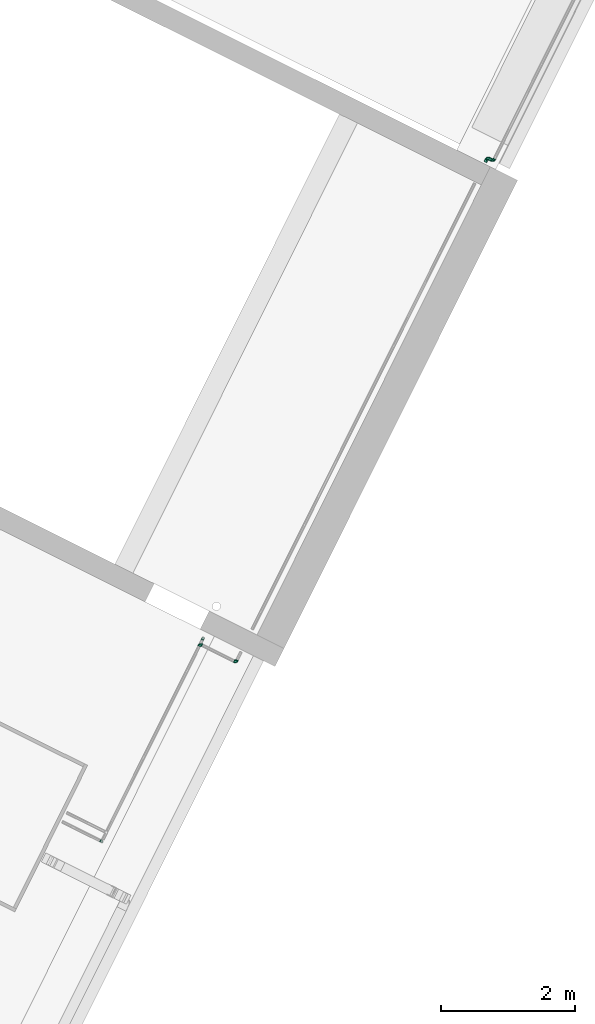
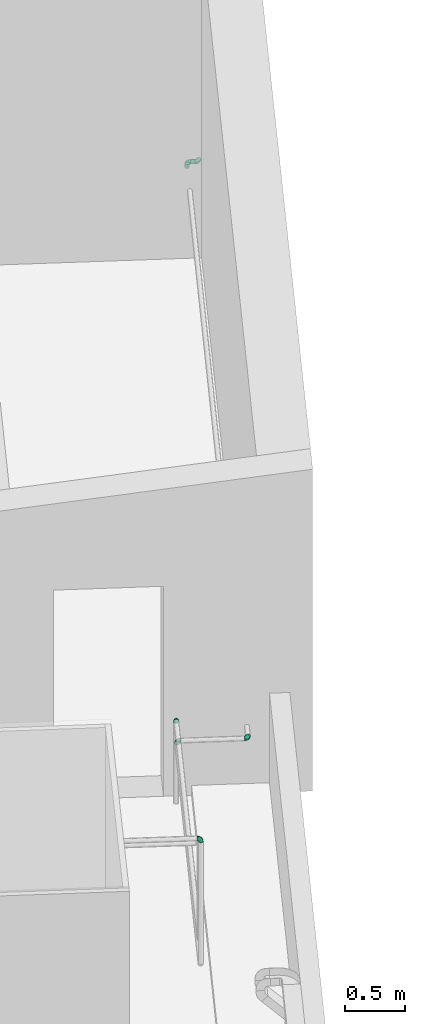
# One storey, part 28 of 34: 6 flow fittings, 2 flow segments.
"""IFC2X3 building model written with IfcOpenShell, lengths in metres."""

from ifc_helpers import new_model, entity, si_unit, converted_unit, derived_unit, direction, frame, frame_2d, origin, origin_2d_with_axis, place, context, subcontext, project, spatial, circle, extrude, faceted_brep, source, transform, mapped, type_object, type_shapes, element, save


model = new_model("IFC2X3")

# Units and contexts
model_context = context("Model", 3, precision=1e-05, world=origin(), true_north=direction((0.894925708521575, 0.446215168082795)))
context_of_model = context(None, 3, precision=1e-05, world=origin(), true_north=direction((0.894925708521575, 0.446215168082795)))
body_context = subcontext(model_context, "Body", "Model", "MODEL_VIEW")
ifc_project = project(units=[si_unit("LENGTHUNIT", "METRE"), si_unit("AREAUNIT", "SQUARE_METRE"), si_unit("VOLUMEUNIT", "CUBIC_METRE"), converted_unit("PLANEANGLEUNIT", "DEGREE", entity("IfcRatioMeasure", 0.0174532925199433), si_unit("PLANEANGLEUNIT", "RADIAN"), dimensions=[0, 0, 0, 0, 0, 0, 0]), si_unit("MASSUNIT", "GRAM", prefix="KILO"), si_unit("TIMEUNIT", "SECOND"), si_unit("FREQUENCYUNIT", "HERTZ"), si_unit("THERMODYNAMICTEMPERATUREUNIT", "DEGREE_CELSIUS"), derived_unit("THERMALTRANSMITTANCEUNIT", [(si_unit("MASSUNIT", "GRAM", prefix="KILO"), 1), (si_unit("THERMODYNAMICTEMPERATUREUNIT", "KELVIN"), -1), (si_unit("TIMEUNIT", "SECOND"), -3)]), derived_unit("VOLUMETRICFLOWRATEUNIT", [(si_unit("LENGTHUNIT", "METRE"), 3), (si_unit("TIMEUNIT", "SECOND"), -1)]), si_unit("ELECTRICCURRENTUNIT", "AMPERE"), si_unit("ELECTRICVOLTAGEUNIT", "VOLT"), si_unit("POWERUNIT", "WATT"), si_unit("FORCEUNIT", "NEWTON", prefix="KILO"), si_unit("ILLUMINANCEUNIT", "LUX"), si_unit("LUMINOUSFLUXUNIT", "LUMEN"), si_unit("LUMINOUSINTENSITYUNIT", "CANDELA"), si_unit("PRESSUREUNIT", "PASCAL")], contexts=[model_context, context_of_model])

# Site, building, storey
site_placement = place(None, frame((218.228324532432, 584.720189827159, 0.0), z_axis=(0.0, 0.0, 1.0), x_axis=(0.446215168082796, 0.894925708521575, 0.0)))
site = spatial("IfcSite", under=ifc_project, at=site_placement, Name="Default", CompositionType="ELEMENT")
building_placement = place(site_placement, origin())
building = spatial("IfcBuilding", under=site, at=building_placement, CompositionType="ELEMENT")
storey_placement = place(building_placement, frame((0.0, 0.0, 8.61)))
storey = spatial("IfcBuildingStorey", under=building, at=storey_placement, Name="2 - Piano Secondo", CompositionType="ELEMENT", Elevation=8.61)

# Flow segments
pipe_segment_type = type_object("IfcPipeSegmentType", Name="Tubazione:Antincendio-Tubazione", PredefinedType="NOTDEFINED")
flow_segment_1_placement = place(storey_placement, frame((11.1715377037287, -13.0790789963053, 0.677322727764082)))
element("IfcFlowSegment", 1, at=flow_segment_1_placement, inside=storey, type_object=pipe_segment_type, Name="Tubazione:Antincendio-Tubazione", ObjectType="Tubazione:Antincendio-Tubazione", context=body_context, shape_type="SweptSolid", body=[
    extrude(circle(Radius=0.021082, at=frame_2d((-4.33146851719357e-15, 0.0), x_axis=(1.0, 0.0))), frame((0.0226772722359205, 0.0, 0.0226772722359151), z_axis=(0.0, 1.0, 0.0), x_axis=(-1.0, 0.0, 0.0)), (0.0, 0.0, 1.0), 0.0360000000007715),
])
flow_segment_2_placement = place(storey_placement, frame((11.1262149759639, -13.0337562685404, 0.677322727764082)))
element("IfcFlowSegment", 2, at=flow_segment_2_placement, inside=storey, type_object=pipe_segment_type, Name="Tubazione:Antincendio-Tubazione", ObjectType="Tubazione:Antincendio-Tubazione", context=body_context, shape_type="SweptSolid", body=[
    extrude(circle(Radius=0.021082, at=origin_2d_with_axis()), frame((0.0, 0.022677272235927, 0.0226772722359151), z_axis=(1.0, 0.0, 0.0), x_axis=(0.0, -1.0, 0.0)), (0.0, 0.0, 1.0), 0.0360000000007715),
])

# Flow fittings
pipe_fitting_type = type_object("IfcPipeFittingType", Name="Standard", PredefinedType="NOTDEFINED")
shared_shape = source(origin(), body_context, "Body", "Brep", [
    faceted_brep([(-0.0319999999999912, 0.0105499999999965, -0.0182731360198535), (-0.0319999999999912, 0.00546108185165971, -0.0203810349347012), (-0.0319999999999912, 0.0, -0.0211000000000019), (-0.0319999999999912, -0.00546108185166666, -0.0203810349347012), (-0.0319999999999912, -0.0105500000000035, -0.0182731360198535), (-0.0319999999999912, -0.0149199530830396, -0.0149199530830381), (-0.0319999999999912, -0.0182731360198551, -0.0105500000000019), (-0.0319999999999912, -0.0203810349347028, -0.00546108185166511), (-0.0319999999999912, -0.0211000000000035, 0.0), (-0.0319999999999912, -0.0203810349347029, 0.00546108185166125), (-0.0319999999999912, -0.0182731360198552, 0.0105499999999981), (-0.0319999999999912, -0.0149199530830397, 0.0149199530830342), (-0.0319999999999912, -0.0105500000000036, 0.0182731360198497), (-0.0319999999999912, -0.00546108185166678, 0.0203810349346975), (-0.0319999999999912, 0.0, 0.0210999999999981), (-0.0319999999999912, 0.00546108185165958, 0.0203810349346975), (-0.0319999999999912, 0.00800554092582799, 0.0193270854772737), (-0.0319999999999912, 0.0105499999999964, 0.0182731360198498), (-0.0319999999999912, 0.0149199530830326, 0.0149199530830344), (-0.0319999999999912, 0.0182731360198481, 0.0105499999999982), (-0.0319999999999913, 0.0203810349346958, 0.00546108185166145), (-0.0319999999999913, 0.0210999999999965, 0.0), (-0.0319999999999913, 0.0203810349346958, -0.00546108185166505), (-0.0319999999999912, 0.0182731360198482, -0.0105500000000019), (-0.0319999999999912, 0.0149199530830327, -0.014919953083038), (0.0, 0.0319999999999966, -0.0211000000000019), (-0.00546108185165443, 0.0319999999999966, -0.0203810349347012), (-0.0105499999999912, 0.0319999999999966, -0.0182731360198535), (-0.0149199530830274, 0.0319999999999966, -0.014919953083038), (-0.0182731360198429, 0.0319999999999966, -0.0105500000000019), (-0.0203810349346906, 0.0319999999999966, -0.00546108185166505), (-0.0210999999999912, 0.0319999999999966, 0.0), (-0.0203810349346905, 0.0319999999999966, 0.00546108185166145), (-0.0182731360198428, 0.0319999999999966, 0.0105499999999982), (-0.0149199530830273, 0.0319999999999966, 0.0149199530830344), (-0.0105499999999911, 0.0319999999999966, 0.0182731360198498), (-0.00800554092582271, 0.0319999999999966, 0.0193270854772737), (-0.0054610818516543, 0.0319999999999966, 0.0203810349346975), (0.0, 0.0319999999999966, 0.0210999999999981), (0.00546108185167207, 0.0319999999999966, 0.0203810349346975), (0.0105500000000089, 0.0319999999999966, 0.0182731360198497), (0.014919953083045, 0.0319999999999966, 0.0149199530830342), (0.0165965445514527, 0.0319999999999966, 0.0127349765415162), (0.0182731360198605, 0.0319999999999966, 0.0105499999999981), (0.0203810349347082, 0.0319999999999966, 0.00546108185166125), (0.0211000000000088, 0.0319999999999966, 0.0), (0.0203810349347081, 0.0319999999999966, -0.00546108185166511), (0.0182731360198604, 0.0319999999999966, -0.0105500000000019), (0.0149199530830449, 0.0319999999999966, -0.0149199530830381), (0.0105500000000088, 0.0319999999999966, -0.0182731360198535), (0.00546108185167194, 0.0319999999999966, -0.0203810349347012), (-0.00222604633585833, 0.023728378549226, 0.0210713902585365), (0.00334042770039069, 0.0236615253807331, 0.0206549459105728), (-0.00900645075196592, -0.00960577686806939, 0.014276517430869), (-0.0209292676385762, -0.0130218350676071, 0.0154568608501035), (-0.0145908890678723, -0.0153912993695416, 0.0101692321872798), (-0.0217190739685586, -0.0190549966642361, 0.0), (-0.0220282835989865, -0.0191631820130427, 0.00633714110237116), (0.0170981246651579, 0.0147219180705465, 0.00657454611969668), (0.0192914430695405, 0.0230467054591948, 0.00652112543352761), (0.0165175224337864, 0.0200572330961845, 0.0110652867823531), (-0.0238201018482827, -0.0169140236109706, 0.0116484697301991), (0.00422109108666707, 0.00733524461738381, 0.0174775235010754), (-0.00183936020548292, -0.00157306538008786, 0.0165161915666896), (0.00494762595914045, 0.000859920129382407, 0.0133740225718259), (-0.0231100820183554, -0.0085835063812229, 0.0188172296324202), (-0.0268497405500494, 0.00624646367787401, 0.0203052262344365), (-0.0237283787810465, 0.00222604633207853, 0.0210713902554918), (0.00636919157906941, -0.00389652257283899, 0.00481660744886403), (0.00885765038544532, 0.00100436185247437, 0.00856309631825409), (0.00317363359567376, -0.0049364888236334, 0.00916667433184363), (0.0190549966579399, 0.021719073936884, 0.0), (-0.0249753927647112, 0.0127272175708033, 0.0176991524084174), (-0.0219437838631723, 0.00803535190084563, 0.0202256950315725), (-0.0080353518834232, 0.0219437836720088, 0.0202256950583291), (-0.0127272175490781, 0.0249753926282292, 0.017699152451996), (-0.0135012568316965, 0.0177999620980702, 0.0192321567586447), (-0.0259094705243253, 0.0169310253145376, 0.0140445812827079), (-0.0243638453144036, -0.00336513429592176, 0.0206817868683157), (-0.0083182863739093, -0.00215621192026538, 0.0188085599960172), (-0.0155459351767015, -0.00207489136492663, 0.0202758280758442), (-0.014962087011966, -0.00661982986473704, 0.0184646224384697), (-0.024116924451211, 0.0234834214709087, 0.00540852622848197), (-0.0260761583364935, 0.02023403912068, 0.00952662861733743), (0.0131866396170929, 0.0228304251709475, 0.0156902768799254), (0.0177597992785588, 0.0259911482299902, 0.0108087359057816), (-0.0196183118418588, 0.0196183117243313, 0.0153381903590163), (0.00836704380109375, 0.0205044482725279, 0.0185948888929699), (-0.0054260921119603, 0.0157915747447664, 0.0210819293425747), (-0.0119915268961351, 0.0119915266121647, 0.0207723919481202), (-0.00791438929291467, 0.00583732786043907, 0.0207972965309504), (-0.000718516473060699, -0.00512241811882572, 0.0130949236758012), (-0.0157915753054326, 0.00542609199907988, 0.0210819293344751), (-0.0175404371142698, 0.0125520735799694, 0.0196189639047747), (-0.00624646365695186, 0.0268497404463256, 0.0203052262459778), (-0.0030660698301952, -0.011302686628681, 0.0), (0.000544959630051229, -0.00927179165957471, 0.00474379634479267), (-0.00924044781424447, -0.0152715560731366, 0.00513668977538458), (-0.0025011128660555, 0.00396354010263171, 0.0192243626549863), (0.0111873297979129, 0.0121560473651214, 0.0142858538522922), (0.0142348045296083, 0.013520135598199, 0.0113438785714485), (-0.021173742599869, 0.0270533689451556, 0.00642753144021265), (0.0170580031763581, 0.0116795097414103, 0.0), (-0.0209433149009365, 0.0244619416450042, 0.0099283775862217), (-0.0169310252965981, 0.0259094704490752, 0.0140445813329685), (0.00815725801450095, 0.0134412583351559, 0.0171881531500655), (0.00158972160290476, 0.0138945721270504, 0.0201812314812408), (-0.0242925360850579, 0.0242925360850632, 0.0), (-0.0156139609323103, -0.0173765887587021, 0.00665048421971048), (-0.0116795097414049, -0.0170580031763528, 0.0), (0.00554737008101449, -0.00554737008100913, 0.0), (0.0113026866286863, 0.00306606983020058, 0.0), (0.0108450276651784, 0.00147671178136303, 0.0045400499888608), (0.0112958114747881, 0.00704585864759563, 0.0110546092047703), (-0.0180945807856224, 0.016544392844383, 0.0178760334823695), (-0.00497912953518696, -0.0112747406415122, 0.00913935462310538), (-0.00893572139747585, -0.00624353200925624, 0.0168798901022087), (-0.0156916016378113, 0.021034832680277, 0.0171095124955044), (-0.00342686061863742, 0.0112043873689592, 0.0208340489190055), (0.0134913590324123, 0.00703921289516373, 0.00704441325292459), (0.00841568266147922, 0.00627762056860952, 0.0138629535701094), (0.0139147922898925, 0.0140606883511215, -0.0120870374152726), (0.0170731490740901, 0.0143997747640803, -0.00631163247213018), (0.0133973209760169, 0.00669108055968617, -0.00679612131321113), (-0.0167699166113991, 0.00347561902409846, -0.0210973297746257), (-0.0230301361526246, 0.00785302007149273, -0.0201559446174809), (-0.0147344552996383, 0.0101848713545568, -0.0206819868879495), (-0.0249600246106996, 0.0021654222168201, -0.0210570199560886), (-0.0269235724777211, 0.0219306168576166, -0.00396891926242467), (-0.0108637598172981, -0.00653031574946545, -0.0173920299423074), (-0.0194617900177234, -0.00823414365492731, -0.018502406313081), (-0.0125598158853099, -0.00220699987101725, -0.0197802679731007), (-0.0268338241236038, 0.0205122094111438, -0.00828818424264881), (-0.024883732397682, 0.0171837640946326, -0.0142474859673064), (-0.0228721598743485, -0.0192710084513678, -0.00648971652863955), (-0.0193464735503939, -0.0164084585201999, -0.0109522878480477), (-0.0143997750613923, -0.0170731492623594, -0.00631163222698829), (-0.0266001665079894, -0.0170138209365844, -0.0120648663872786), (-0.00785301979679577, 0.0230301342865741, -0.0201559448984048), (-0.0252598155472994, 0.0126864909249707, -0.0176618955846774), (-0.0230841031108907, -0.0033100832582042, -0.0206322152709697), (-0.020019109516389, 0.0119073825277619, -0.0192649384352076), (-0.0225715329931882, -0.0131689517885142, -0.0156588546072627), (0.0164084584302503, 0.0193464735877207, -0.0109522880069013), (0.0170138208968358, 0.0266001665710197, -0.0120648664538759), (0.019271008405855, 0.0228721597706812, -0.00648971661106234), (-0.0105318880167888, -0.0106441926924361, -0.0140486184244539), (-0.017183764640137, 0.0248837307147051, -0.014247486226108), (-0.0266864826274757, -0.0086126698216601, -0.0191036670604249), (0.0033100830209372, 0.0230841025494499, -0.0206322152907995), (-0.0222937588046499, 0.0222937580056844, -0.0105497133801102), (-0.020353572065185, 0.0203535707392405, -0.0142844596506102), (-0.0221527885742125, 0.0262370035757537, -0.00460941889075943), (-0.00807833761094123, 0.00807833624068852, -0.0210204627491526), (-0.0126864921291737, 0.0252598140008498, -0.0176618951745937), (-0.0021654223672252, 0.0249600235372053, -0.0210570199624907), (0.0131689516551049, 0.022571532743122, -0.0156588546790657), (-0.0202234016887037, 0.0270426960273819, -0.00870077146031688), (0.00220699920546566, 0.0125598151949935, -0.0197802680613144), (0.00404629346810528, 0.00564706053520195, -0.0168858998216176), (-0.00350668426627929, 0.00350668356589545, -0.0194008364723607), (0.00861266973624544, 0.0266864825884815, -0.019103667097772), (0.00823414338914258, 0.019461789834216, -0.0185024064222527), (0.00902992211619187, 0.00178506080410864, -0.00926949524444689), (0.00883192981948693, -0.00110649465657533, -0.00471271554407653), (-0.00347562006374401, 0.0167699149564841, -0.0210973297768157), (0.0120396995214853, 0.00786660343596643, -0.010643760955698), (-0.00165984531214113, -0.00597168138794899, -0.0130195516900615), (-0.00858690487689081, -0.0124343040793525, -0.0106324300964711), (0.0106441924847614, 0.0105318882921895, -0.0140486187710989), (0.00627836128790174, 0.0123278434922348, -0.0179828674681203), (-0.0164380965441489, 0.0206141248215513, -0.0168366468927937), (-0.0160857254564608, 0.0160857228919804, -0.0188434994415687), (-0.0206141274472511, 0.0164380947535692, -0.0168366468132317), (-0.0106154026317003, 0.0161949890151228, -0.0203950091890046), (-0.00669108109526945, -0.0133973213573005, -0.00679612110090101), (0.00175955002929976, -0.00801862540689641, -0.00555203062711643), (-0.00301871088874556, -0.00338565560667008, -0.0160140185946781), (0.0034281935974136, -0.00342819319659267, -0.0108392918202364), (-0.00243028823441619, -0.00914614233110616, -0.00983204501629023), (-0.00670255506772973, -0.00186855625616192, -0.0184300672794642), (0.00640730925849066, 0.00275638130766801, -0.0134309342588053)], [[[0, 1, 2, 3, 4, 5, 6, 7, 8, 9, 10, 11, 12, 13, 14, 15, 16, 17, 18, 19, 20, 21, 22, 23, 24]], [[25, 26, 27, 28, 29, 30, 31, 32, 33, 34, 35, 36, 37, 38, 39, 40, 41, 42, 43, 44, 45, 46, 47, 48, 49, 50]], [[38, 51, 52]], [[53, 54, 55]], [[9, 56, 57]], [[58, 59, 60]], [[61, 11, 10]], [[9, 8, 56]], [[62, 63, 64]], [[54, 11, 61]], [[54, 65, 12]], [[17, 16, 15, 66]], [[15, 14, 67]], [[68, 69, 70]], [[45, 44, 71]], [[72, 66, 73]], [[74, 75, 76]], [[77, 19, 18]], [[78, 14, 13]], [[66, 72, 17]], [[79, 80, 81]], [[82, 20, 83]], [[84, 85, 41]], [[21, 20, 82]], [[83, 77, 86]], [[87, 84, 40]], [[72, 18, 17]], [[88, 89, 90]], [[70, 64, 91]], [[73, 92, 93]], [[39, 38, 52]], [[73, 67, 92]], [[84, 41, 40]], [[40, 39, 87]], [[36, 35, 94, 37]], [[59, 44, 43]], [[95, 96, 97]], [[35, 34, 75]], [[63, 62, 98]], [[85, 59, 43]], [[64, 70, 69]], [[74, 88, 51]], [[99, 100, 84]], [[101, 33, 32]], [[59, 102, 71]], [[103, 86, 104]], [[105, 106, 62]], [[82, 101, 107]], [[9, 57, 10]], [[94, 35, 75]], [[77, 83, 19]], [[97, 108, 109]], [[34, 33, 104]], [[51, 38, 37]], [[107, 101, 31]], [[12, 65, 13]], [[54, 12, 11]], [[110, 111, 112]], [[100, 99, 113]], [[109, 57, 56]], [[57, 108, 61]], [[104, 75, 34]], [[74, 76, 89]], [[88, 74, 89]], [[106, 87, 52]], [[78, 67, 14]], [[80, 90, 92]], [[93, 89, 76]], [[72, 114, 77]], [[70, 91, 115]], [[63, 79, 116]], [[115, 53, 55]], [[70, 96, 68]], [[58, 60, 100]], [[71, 44, 59]], [[84, 87, 105]], [[85, 43, 42, 41]], [[81, 54, 53]], [[65, 81, 78]], [[106, 52, 51]], [[87, 39, 52]], [[103, 104, 33]], [[104, 86, 117]], [[72, 77, 18]], [[83, 86, 103]], [[82, 83, 103]], [[20, 19, 83]], [[57, 61, 10]], [[54, 61, 55]], [[101, 82, 103]], [[82, 107, 21]], [[65, 78, 13]], [[67, 78, 80]], [[86, 114, 117]], [[114, 72, 93]], [[92, 89, 93]], [[106, 51, 88]], [[98, 79, 63]], [[118, 88, 90]], [[80, 92, 67]], [[90, 89, 92]], [[119, 102, 58]], [[102, 59, 58]], [[114, 93, 76]], [[72, 73, 93]], [[55, 97, 115]], [[96, 70, 115]], [[108, 97, 55]], [[96, 110, 68]], [[95, 97, 109]], [[97, 96, 115]], [[110, 96, 95]], [[112, 119, 69]], [[68, 112, 69]], [[119, 113, 69]], [[102, 119, 111]], [[64, 63, 91]], [[113, 64, 69]], [[118, 98, 106]], [[113, 120, 64]], [[62, 120, 105]], [[119, 58, 100]], [[113, 99, 120]], [[100, 113, 119]], [[84, 100, 60]], [[110, 112, 68]], [[111, 119, 112]], [[117, 76, 75]], [[114, 86, 77]], [[76, 117, 114]], [[104, 117, 75]], [[106, 98, 62]], [[79, 90, 80]], [[90, 79, 98]], [[78, 81, 80]], [[54, 81, 65]], [[116, 79, 81]], [[105, 120, 99]], [[62, 64, 120]], [[116, 91, 63]], [[115, 91, 53]], [[81, 53, 116]], [[116, 53, 91]], [[94, 75, 74]], [[74, 51, 94]], [[51, 37, 94]], [[73, 66, 67]], [[15, 67, 66]], [[85, 84, 60]], [[59, 85, 60]], [[33, 101, 103]], [[31, 101, 32]], [[98, 118, 90]], [[106, 88, 118]], [[61, 108, 55]], [[109, 108, 57]], [[84, 105, 99]], [[106, 105, 87]], [[121, 122, 123]], [[124, 125, 126]], [[124, 127, 125]], [[127, 2, 1]], [[21, 128, 22]], [[129, 130, 131]], [[132, 133, 23]], [[134, 135, 136]], [[24, 23, 133]], [[5, 137, 6]], [[26, 138, 27]], [[0, 24, 139]], [[109, 56, 134]], [[140, 3, 2]], [[134, 7, 6]], [[125, 141, 126]], [[142, 5, 4]], [[143, 144, 145]], [[135, 142, 146]], [[29, 28, 147]], [[137, 134, 6]], [[4, 148, 142]], [[148, 140, 130]], [[148, 4, 3]], [[50, 149, 25]], [[130, 140, 131]], [[21, 107, 128]], [[150, 151, 133]], [[31, 30, 152]], [[46, 45, 71]], [[126, 153, 124]], [[132, 22, 128]], [[154, 147, 28]], [[26, 155, 138]], [[26, 25, 155]], [[48, 156, 49]], [[144, 48, 47]], [[150, 157, 147]], [[158, 159, 160]], [[161, 149, 50]], [[161, 156, 162]], [[125, 1, 0]], [[163, 123, 164]], [[165, 149, 158]], [[157, 150, 152]], [[161, 50, 49]], [[139, 24, 133]], [[145, 122, 143]], [[121, 123, 166]], [[56, 8, 7]], [[146, 167, 168]], [[169, 162, 156]], [[159, 158, 170]], [[47, 46, 145]], [[171, 172, 173]], [[150, 132, 152]], [[28, 27, 154]], [[165, 153, 174]], [[151, 150, 147]], [[139, 141, 125]], [[123, 102, 111]], [[95, 175, 176]], [[164, 123, 111]], [[159, 177, 160]], [[178, 176, 179]], [[178, 164, 176]], [[144, 156, 48]], [[156, 143, 121]], [[158, 149, 162]], [[155, 149, 165]], [[170, 169, 159]], [[158, 160, 153]], [[146, 142, 130]], [[137, 142, 135]], [[127, 140, 2]], [[124, 153, 131]], [[124, 131, 140]], [[180, 129, 131]], [[168, 136, 135]], [[56, 7, 134]], [[46, 71, 145]], [[102, 145, 71]], [[27, 138, 154]], [[154, 138, 174]], [[173, 133, 151]], [[125, 0, 139]], [[169, 166, 181]], [[178, 179, 167]], [[177, 159, 181]], [[146, 130, 129]], [[125, 127, 1]], [[140, 127, 124]], [[149, 155, 25]], [[138, 155, 165]], [[174, 126, 172]], [[126, 174, 153]], [[158, 153, 165]], [[131, 153, 160]], [[175, 109, 136]], [[109, 134, 136]], [[145, 102, 122]], [[102, 123, 122]], [[152, 128, 107]], [[128, 152, 132]], [[31, 152, 107]], [[152, 30, 157]], [[133, 132, 150]], [[23, 22, 132]], [[30, 29, 157]], [[147, 157, 29]], [[154, 174, 172]], [[165, 174, 138]], [[176, 164, 110]], [[164, 111, 110]], [[163, 164, 178]], [[95, 109, 175]], [[176, 175, 179]], [[176, 110, 95]], [[181, 163, 178]], [[166, 123, 163]], [[181, 178, 167]], [[169, 181, 159]], [[181, 166, 163]], [[121, 166, 169]], [[156, 121, 169]], [[122, 121, 143]], [[168, 179, 175]], [[167, 146, 177]], [[136, 168, 175]], [[135, 146, 168]], [[167, 179, 168]], [[181, 167, 177]], [[180, 131, 160]], [[146, 129, 177]], [[160, 177, 180]], [[177, 129, 180]], [[156, 161, 49]], [[149, 161, 162]], [[145, 144, 47]], [[156, 144, 143]], [[140, 148, 3]], [[142, 148, 130]], [[142, 137, 5]], [[134, 137, 135]], [[171, 151, 147]], [[151, 171, 173]], [[147, 154, 171]], [[154, 172, 171]], [[141, 173, 172]], [[139, 133, 173]], [[173, 141, 139]], [[126, 141, 172]], [[158, 162, 170]], [[169, 170, 162]]]),
])
type_shapes(pipe_fitting_type, [shared_shape])
for number, where, z_axis, x_axis, name in (
    (3, (11.1942149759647, -13.0110789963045, 0.7), (0.0, 0.0, 1.0), (0.0, 1.0, 0.0), "M_Gomito - Saldato - Generico:Standard"),
    (4, (11.1942149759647, -13.1110789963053, 0.7), (0.0, 0.0, 1.0), (0.0, -1.0, 0.0), "M_Gomito - Saldato - Generico:Standard"),
    (5, (-0.463569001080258, -12.4160789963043, 2.0), (1.0, 0.0, 0.0), (0.0, -1.0, 0.0), "M_Gomito - Saldato - Generico:Standard"),
    (6, (2.81421497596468, -13.0110789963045, 0.699999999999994), (0.0, 0.0, 1.0), (0.0, -1.0, 0.0), "M_Gomito - Saldato - Generico:Standard"),
    (7, (2.81421497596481, -12.4160789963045, 0.699999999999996), (0.0, 0.0, 1.0), (0.0, 1.0, 0.0), "M_Gomito - Saldato - Generico:Standard"),
    (8, (2.91421497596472, -12.4160789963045, 0.849999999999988), (0.0, 1.0, 0.0), (1.0, 0.0, 0.0), "M_Gomito - Saldato - Generico:Standard"),
):
    element("IfcFlowFitting", number, at=place(storey_placement, frame(where, z_axis=z_axis, x_axis=x_axis)), inside=storey, type_object=pipe_fitting_type, Name=name, ObjectType="Standard", context=body_context, shape_type="MappedRepresentation", body=[
        mapped(shared_shape, transform((0.0, 0.0, 0.0), scale=1.0)),
    ])

save(model, "model.ifc")
